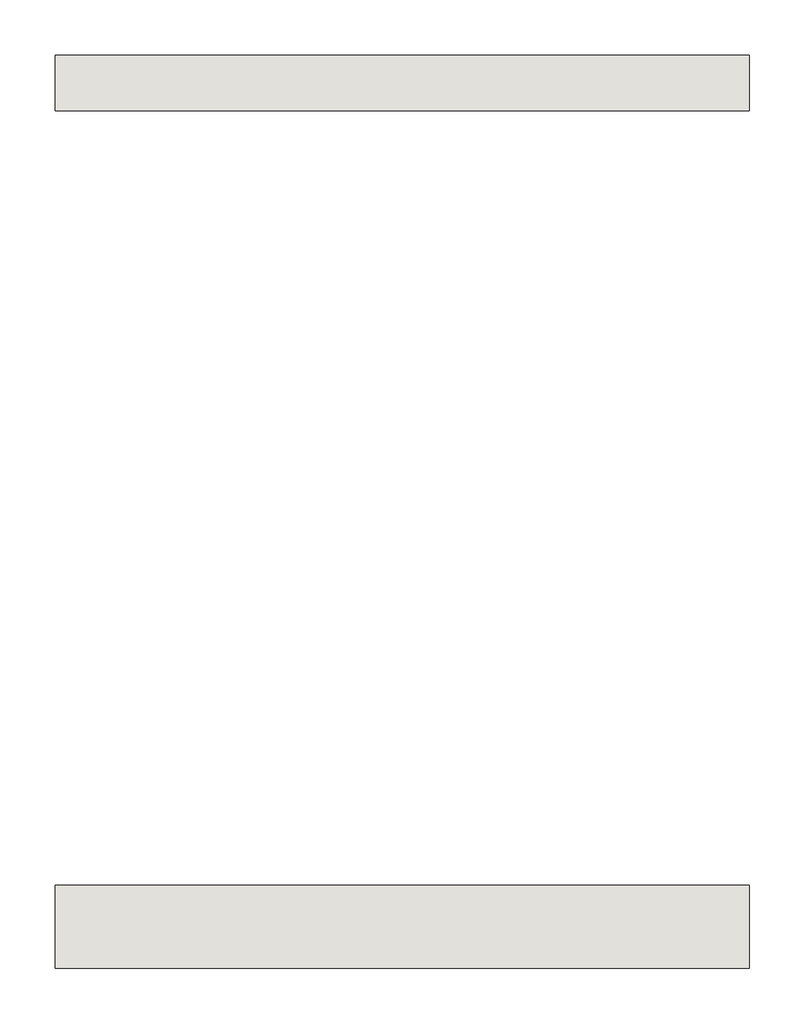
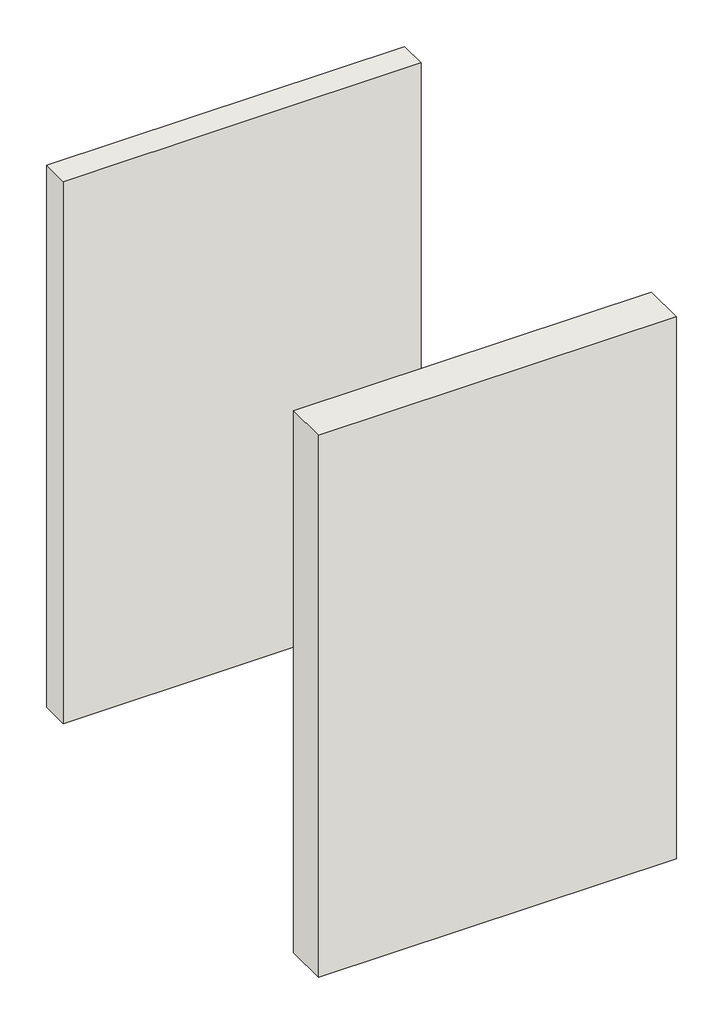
# One storey: 2 walls.
"""IFC4 building model written with IfcOpenShell, lengths in millimetres."""

import ifcopenshell
import ifcopenshell.guid

model = None  # the IFC model being written
_history = None  # IfcOwnerHistory: only IFC2X3 demands one
_inside = {}  # id of a spatial element -> (the spatial element, [elements in it])
_under = {}  # id of a project, library or spatial element -> (it, [spatial elements below it])
_declared = {}  # id of a project -> (the project, [libraries it declares])
_typed = {}  # id of a type object -> (the type object, [elements of that type])
_made_of = {}  # id of a material, layer set ... -> (it, [elements and type objects made of it])


def new_model(schema):
    """Start an empty IFC model of exactly this schema.

    Asked for "IFC4X3", IfcOpenShell would pick the latest addendum, in which some entities
    have other attributes; the version numbers below select the first issue.
    IFC2X3 requires an IfcOwnerHistory on every rooted entity: one is made here for all.
    """
    global model, _history
    if schema == "IFC4X3":
        model = ifcopenshell.file(schema_version=(4, 3, 0, 0))
    else:
        model = ifcopenshell.file(schema=schema)
    _inside.clear()
    _under.clear()
    _declared.clear()
    _typed.clear()
    _made_of.clear()
    _history = None
    if model.schema == "IFC2X3":
        org = make("IfcOrganization", Name="unknown")
        user = make(
            "IfcPersonAndOrganization",
            ThePerson=make("IfcPerson", FamilyName="unknown"),
            TheOrganization=org,
        )
        app = make(
            "IfcApplication",
            ApplicationDeveloper=org,
            Version="unknown",
            ApplicationFullName="unknown",
            ApplicationIdentifier="unknown",
        )
        _history = make(
            "IfcOwnerHistory",
            OwningUser=user,
            OwningApplication=app,
            ChangeAction="ADDED",
            CreationDate=0,
        )
    return model


def make(cls, **values):
    """One entity of the class cls with the attributes given. An attribute that is None is left unset."""
    return model.create_entity(
        cls, **{name: value for name, value in values.items() if value is not None}
    )


def rooted(cls, **values):
    """An entity with a GlobalId (a new one), such as an element, a storey or a relation."""
    return make(cls, GlobalId=ifcopenshell.guid.new(), OwnerHistory=_history, **values)


def si_unit(unit_type, name, prefix=None):
    """IfcSIUnit, for example si_unit("LENGTHUNIT", "METRE", prefix="MILLI")."""
    return make("IfcSIUnit", UnitType=unit_type, Prefix=prefix, Name=name)


def assignment(units):
    """IfcUnitAssignment: the units of a project."""
    return None if units is None else make("IfcUnitAssignment", Units=units)


def point(xyz):
    """IfcCartesianPoint."""
    return None if xyz is None else make("IfcCartesianPoint", Coordinates=xyz)


def direction(xyz):
    """IfcDirection."""
    return None if xyz is None else make("IfcDirection", DirectionRatios=xyz)


def frame(location, z_axis=None, x_axis=None):
    """IfcAxis2Placement3D, a coordinate frame: its origin and axes. An axis left out is left unset."""
    return make(
        "IfcAxis2Placement3D",
        Location=point(location),
        Axis=direction(z_axis),
        RefDirection=direction(x_axis),
    )


def origin():
    """The frame at (0, 0, 0) with its axes left unset."""
    return frame((0.0, 0.0, 0.0))


def origin_with_axes():
    """The frame at (0, 0, 0) with the z axis (0, 0, 1) and the x axis (1, 0, 0) written out."""
    return frame((0.0, 0.0, 0.0), z_axis=(0.0, 0.0, 1.0), x_axis=(1.0, 0.0, 0.0))


def place(relative_to, where):
    """IfcLocalPlacement: puts the frame where relative to a parent placement (None: the world)."""
    return make(
        "IfcLocalPlacement", PlacementRelTo=relative_to, RelativePlacement=where
    )


def context(
    kind, dimensions, precision=None, world=None, true_north=None, identifier=None
):
    """IfcGeometricRepresentationContext, for example the 3D "Model" context."""
    return make(
        "IfcGeometricRepresentationContext",
        ContextIdentifier=identifier,
        ContextType=kind,
        CoordinateSpaceDimension=dimensions,
        Precision=precision,
        WorldCoordinateSystem=world,
        TrueNorth=true_north,
    )


def project(units=None, contexts=None):
    """IfcProject with its units and contexts."""
    return rooted(
        "IfcProject",
        Name="project",
        RepresentationContexts=contexts,
        UnitsInContext=assignment(units),
    )


def spatial(cls, under=None, at=None, **own):
    """A site, building, storey or space (cls), placed at a placement, below another one or the project."""
    s = rooted(cls, ObjectPlacement=at, **own)
    if under is not None:
        _under.setdefault(under.id(), (under, []))[1].append(s)
    return s


def polyline(points):
    """IfcPolyline through the points."""
    return make("IfcPolyline", Points=[point(p) for p in points])


def outline(outer, holes=None, kind="AREA"):
    """IfcArbitraryClosedProfileDef: a profile drawn as a closed curve; with holes, ...WithVoids."""
    if holes is None:
        return make("IfcArbitraryClosedProfileDef", ProfileType=kind, OuterCurve=outer)
    return make(
        "IfcArbitraryProfileDefWithVoids",
        ProfileType=kind,
        OuterCurve=outer,
        InnerCurves=holes,
    )


def extrude(swept, where, along, depth):
    """IfcExtrudedAreaSolid: the profile swept, set in the frame where, extruded along a direction by depth."""
    return make(
        "IfcExtrudedAreaSolid",
        SweptArea=swept,
        Position=where,
        ExtrudedDirection=direction(along),
        Depth=depth,
    )


def shape(context_of_items, identifier, shape_type, items):
    """IfcShapeRepresentation: the items that make up one representation, for example the "Body"."""
    return make(
        "IfcShapeRepresentation",
        ContextOfItems=context_of_items,
        RepresentationIdentifier=identifier,
        RepresentationType=shape_type,
        Items=items,
    )


def made_of(thing, what):
    """Note that an element or type object is made of a material, layer set ...; save() writes the relation."""
    if what is not None:
        _made_of.setdefault(what.id(), (what, []))[1].append(thing)
    return thing


def element(
    cls,
    number,
    at=None,
    inside=None,
    cuts=None,
    type_object=None,
    material=None,
    context=None,
    identifier="Body",
    shape_type=None,
    held_by="IfcProductDefinitionShape",
    body=None,
    shapes=None,
    **own,
):
    """One element of the class cls, such as IfcWall. Its Tag is "e" and its number.

    at: its placement. inside: the storey or other place that contains it. cuts: it is an
    opening in that element (IfcRelVoidsElement). A single representation is given by context,
    identifier, shape_type and body (its items); several are given by shapes. held_by: the class
    of the entity that holds the representations. save() writes the other relations.
    """
    e = rooted(cls, Tag="e%d" % number, ObjectPlacement=at, **own)
    if body is not None:
        shapes = [shape(context, identifier, shape_type, body)]
    if shapes is not None:
        e.Representation = make(held_by, Representations=shapes)
    if inside is not None:
        _inside.setdefault(inside.id(), (inside, []))[1].append(e)
    if cuts is not None:
        rooted(
            "IfcRelVoidsElement", RelatingBuildingElement=cuts, RelatedOpeningElement=e
        )
    if type_object is not None:
        _typed.setdefault(type_object.id(), (type_object, []))[1].append(e)
    return made_of(e, material)


def aggregate(whole, parts):
    """IfcRelAggregates: a whole, such as a stair, and the parts it consists of."""
    return rooted("IfcRelAggregates", RelatingObject=whole, RelatedObjects=parts)


def save(model, path):
    """Write the relations noted so far, then the file.

    IfcRelAggregates (storeys below a building ...), IfcRelContainedInSpatialStructure (elements
    in a storey), IfcRelDefinesByType, IfcRelAssociatesMaterial and IfcRelDeclares: one each for
    every whole, place, type object, material and project.
    """
    for whole, parts in _under.values():
        aggregate(whole, parts)
    for where, things in _inside.values():
        rooted(
            "IfcRelContainedInSpatialStructure",
            RelatedElements=things,
            RelatingStructure=where,
        )
    for kind, things in _typed.values():
        rooted("IfcRelDefinesByType", RelatedObjects=things, RelatingType=kind)
    for what, things in _made_of.values():
        rooted("IfcRelAssociatesMaterial", RelatedObjects=things, RelatingMaterial=what)
    for by, libraries in _declared.values():
        rooted("IfcRelDeclares", RelatingContext=by, RelatedDefinitions=libraries)
    model.write(path)


model = new_model("IFC4")

# Units and contexts
model_context = context("Model", 3, world=origin())
ifc_project = project(units=[si_unit("LENGTHUNIT", "METRE", prefix="MILLI")], contexts=[model_context])

# Site, building, storey
site = spatial("IfcSite", under=ifc_project)
building = spatial("IfcBuilding", under=site)
storey = spatial("IfcBuildingStorey", under=building, Name="Референтни ниво", Elevation=0.0)

# Walls
placement = place(None, origin())
element("IfcWall", 1, ObjectType="Knauf Insulation - NaturBoard FIT-G PLUS - 50 mm - 50 x 1000 x 625 mm", at=placement, inside=storey, context=model_context, shape_type="SweptSolid", body=[
    extrude(outline(polyline([(-253623.2417825, 183192.205474), (-254248.2417825, 183192.205474), (-254248.2417825, 183242.205474), (-253623.2417825, 183242.205474), (-253623.2417825, 183192.205474)])), origin_with_axes(), (0.0, 0.0, 1.0), 1000.0),
])
element("IfcWall", 2, ObjectType="Knauf Insulation - NaturBoard FIT-G PLUS - 75 mm - 75 x 1000 x 625 mm", at=placement, inside=storey, context=model_context, shape_type="SweptSolid", body=[
    extrude(outline(polyline([(-253623.2417825, 182419.705474), (-254248.2417825, 182419.705474), (-254248.2417825, 182494.705474), (-253623.2417825, 182494.705474), (-253623.2417825, 182419.705474)])), origin_with_axes(), (0.0, 0.0, 1.0), 1000.0),
])

save(model, "model.ifc")
